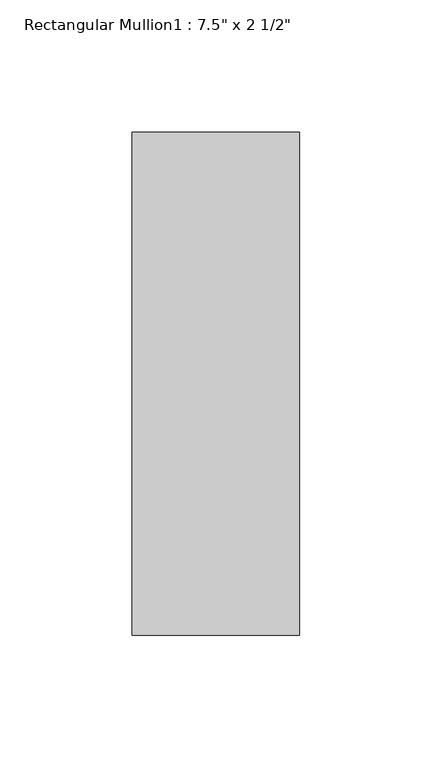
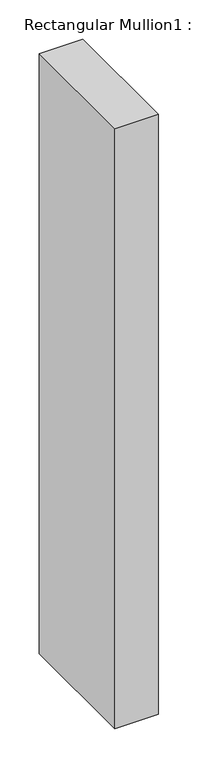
"""IFC4 building model written with IfcOpenShell, lengths in millimetres: member geometry."""

from ifc_helpers import new_model, si_unit, frame, origin, place, context, project, spatial, polyline, outline, extrude, source, transform, mapped, element, save


def member_f511f715(model_context):
    return source(origin(), model_context, "Body", "SweptSolid", [
        extrude(outline(polyline([(-63.5, -165.1), (-63.5, 25.4), (0.0, 25.4), (0.0, -165.1), (-63.5, -165.1)])), frame((0.0, 0.0, -927.1), z_axis=(0.0, 0.0, 1.0), x_axis=(1.0, 0.0, 0.0)), (0.0, 0.0, 1.0), 927.1),
    ])


if __name__ == "__main__":
    model = new_model("IFC4")
    model_context = context("Model", 3, world=origin())
    ifc_project = project(units=[si_unit("LENGTHUNIT", "METRE", prefix="MILLI")], contexts=[model_context])
    site = spatial("IfcSite", under=ifc_project)
    building = spatial("IfcBuilding", under=site)
    placement = place(None, origin())
    member_shape = member_f511f715(model_context)
    element("IfcMember", 1, ObjectType="Rectangular Mullion1 : 7.5\" x 2 1/2\"", at=placement, inside=building, context=model_context, shape_type="MappedRepresentation", body=[
        mapped(member_shape, transform((0.0, 0.0, 0.0), x_axis=(1.0, 0.0, 0.0), y_axis=(0.0, 1.0, 0.0), z_axis=(0.0, 0.0, 1.0))),
    ])
    save(model, "model.ifc")
